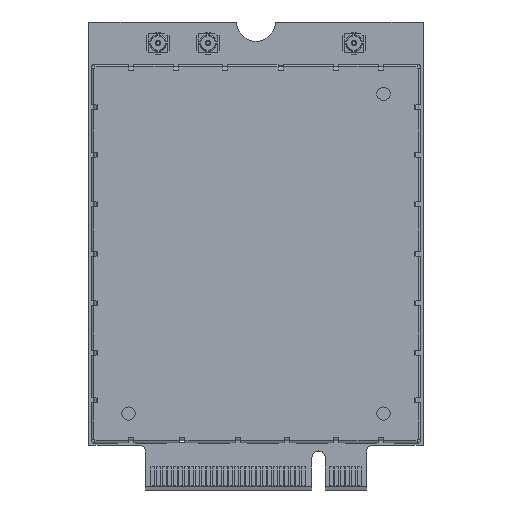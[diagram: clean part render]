
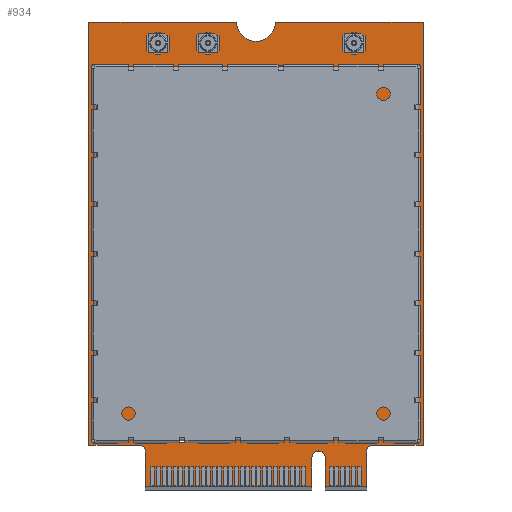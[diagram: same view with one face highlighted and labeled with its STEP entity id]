
A CAD part, top view. The second image highlights one B-rep face of the part: STEP entity #934.
In plain terms, the highlighted planar face has unit normal (0, 0, 1).
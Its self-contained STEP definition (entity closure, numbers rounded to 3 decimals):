
#244=CARTESIAN_POINT('',(9.06,4.5,0.8));
#245=DIRECTION('',(0.,0.,1.));
#246=DIRECTION('',(0.,-1.,0.));
#247=AXIS2_PLACEMENT_3D('',#244,#245,#246);
#252=DIRECTION('',(-1.,0.,0.));
#253=VECTOR('',#252,1.32);
#254=CARTESIAN_POINT('',(9.06,4.73,0.8));
#255=LINE('',#254,#253);
#259=CARTESIAN_POINT('',(7.74,4.5,0.8));
#260=DIRECTION('',(0.,0.,1.));
#261=DIRECTION('',(0.,1.,0.));
#262=AXIS2_PLACEMENT_3D('',#259,#260,#261);
#267=DIRECTION('',(1.,0.,0.));
#268=VECTOR('',#267,1.32);
#269=CARTESIAN_POINT('',(7.74,4.27,0.8));
#270=LINE('',#269,#268);
#274=CARTESIAN_POINT('',(17.86,37.9,0.8));
#275=DIRECTION('',(0.,0.,1.));
#276=DIRECTION('',(0.,-1.,0.));
#277=AXIS2_PLACEMENT_3D('',#274,#275,#276);
#282=DIRECTION('',(-1.,0.,0.));
#283=VECTOR('',#282,1.32);
#284=CARTESIAN_POINT('',(17.86,38.13,0.8));
#285=LINE('',#284,#283);
#289=CARTESIAN_POINT('',(16.54,37.9,0.8));
#290=DIRECTION('',(0.,0.,1.));
#291=DIRECTION('',(0.,1.,0.));
#292=AXIS2_PLACEMENT_3D('',#289,#290,#291);
#297=DIRECTION('',(1.,0.,0.));
#298=VECTOR('',#297,1.32);
#299=CARTESIAN_POINT('',(16.54,37.67,0.8));
#300=LINE('',#299,#298);
#304=DIRECTION('',(0.,-1.,0.));
#305=VECTOR('',#304,3.2);
#306=CARTESIAN_POINT('',(5.075,3.5,0.8));
#307=LINE('',#306,#305);
#311=CARTESIAN_POINT('',(4.575,3.5,0.8));
#312=DIRECTION('',(0.,0.,-1.));
#313=DIRECTION('',(0.,1.,0.));
#314=AXIS2_PLACEMENT_3D('',#311,#312,#313);
#319=DIRECTION('',(1.,0.,0.));
#320=VECTOR('',#319,4.575);
#321=CARTESIAN_POINT('',(0.,4.,0.8));
#322=LINE('',#321,#320);
#326=DIRECTION('',(0.,-1.,0.));
#327=VECTOR('',#326,38.);
#328=CARTESIAN_POINT('',(0.,42.,0.8));
#329=LINE('',#328,#327);
#333=DIRECTION('',(-1.,0.,0.));
#334=VECTOR('',#333,13.25);
#335=CARTESIAN_POINT('',(13.25,42.,0.8));
#336=LINE('',#335,#334);
#340=CARTESIAN_POINT('',(15.,42.,0.8));
#341=DIRECTION('',(0.,0.,-1.));
#342=DIRECTION('',(1.,0.,0.));
#343=AXIS2_PLACEMENT_3D('',#340,#341,#342);
#348=DIRECTION('',(-1.,0.,0.));
#349=VECTOR('',#348,13.25);
#350=CARTESIAN_POINT('',(30.,42.,0.8));
#351=LINE('',#350,#349);
#355=DIRECTION('',(0.,1.,0.));
#356=VECTOR('',#355,38.);
#357=CARTESIAN_POINT('',(30.,4.,0.8));
#358=LINE('',#357,#356);
#362=DIRECTION('',(1.,0.,0.));
#363=VECTOR('',#362,4.575);
#364=CARTESIAN_POINT('',(25.425,4.,0.8));
#365=LINE('',#364,#363);
#369=CARTESIAN_POINT('',(25.425,3.5,0.8));
#370=DIRECTION('',(0.,0.,-1.));
#371=DIRECTION('',(-1.,0.,0.));
#372=AXIS2_PLACEMENT_3D('',#369,#370,#371);
#377=DIRECTION('',(0.,1.,0.));
#378=VECTOR('',#377,3.2);
#379=CARTESIAN_POINT('',(24.925,0.3,0.8));
#380=LINE('',#379,#378);
#384=DIRECTION('',(1.,0.,0.));
#385=VECTOR('',#384,3.7);
#386=CARTESIAN_POINT('',(21.225,0.3,0.8));
#387=LINE('',#386,#385);
#391=DIRECTION('',(0.,-1.,0.));
#392=VECTOR('',#391,2.6);
#393=CARTESIAN_POINT('',(21.225,2.9,0.8));
#394=LINE('',#393,#392);
#398=CARTESIAN_POINT('',(20.625,2.9,0.8));
#399=DIRECTION('',(0.,0.,-1.));
#400=DIRECTION('',(-1.,0.,0.));
#401=AXIS2_PLACEMENT_3D('',#398,#399,#400);
#406=DIRECTION('',(0.,1.,0.));
#407=VECTOR('',#406,2.6);
#408=CARTESIAN_POINT('',(20.025,0.3,0.8));
#409=LINE('',#408,#407);
#413=DIRECTION('',(1.,0.,0.));
#414=VECTOR('',#413,14.95);
#415=CARTESIAN_POINT('',(5.075,0.3,0.8));
#416=LINE('',#415,#414);
#668=CARTESIAN_POINT('',(30.,42.,0.8));
#669=CARTESIAN_POINT('',(16.75,42.,0.8));
#670=VERTEX_POINT('',#668);
#671=VERTEX_POINT('',#669);
#672=CARTESIAN_POINT('',(13.25,42.,0.8));
#673=VERTEX_POINT('',#672);
#674=CARTESIAN_POINT('',(0.,42.,0.8));
#675=VERTEX_POINT('',#674);
#676=CARTESIAN_POINT('',(0.,4.,0.8));
#677=VERTEX_POINT('',#676);
#678=CARTESIAN_POINT('',(4.575,4.,0.8));
#679=VERTEX_POINT('',#678);
#680=CARTESIAN_POINT('',(5.075,3.5,0.8));
#681=VERTEX_POINT('',#680);
#682=CARTESIAN_POINT('',(20.025,2.9,0.8));
#683=CARTESIAN_POINT('',(21.225,2.9,0.8));
#684=VERTEX_POINT('',#682);
#685=VERTEX_POINT('',#683);
#686=CARTESIAN_POINT('',(24.925,3.5,0.8));
#687=CARTESIAN_POINT('',(25.425,4.,0.8));
#688=VERTEX_POINT('',#686);
#689=VERTEX_POINT('',#687);
#690=CARTESIAN_POINT('',(30.,4.,0.8));
#691=VERTEX_POINT('',#690);
#701=CARTESIAN_POINT('',(5.075,0.3,0.8));
#703=VERTEX_POINT('',#701);
#710=CARTESIAN_POINT('',(20.025,0.3,0.8));
#711=VERTEX_POINT('',#710);
#713=CARTESIAN_POINT('',(21.225,0.3,0.8));
#715=VERTEX_POINT('',#713);
#722=CARTESIAN_POINT('',(24.925,0.3,0.8));
#723=VERTEX_POINT('',#722);
#740=CARTESIAN_POINT('',(9.06,4.27,0.8));
#741=CARTESIAN_POINT('',(9.06,4.73,0.8));
#742=VERTEX_POINT('',#740);
#743=VERTEX_POINT('',#741);
#744=CARTESIAN_POINT('',(7.74,4.73,0.8));
#745=VERTEX_POINT('',#744);
#746=CARTESIAN_POINT('',(7.74,4.27,0.8));
#747=VERTEX_POINT('',#746);
#748=CARTESIAN_POINT('',(17.86,37.67,0.8));
#749=CARTESIAN_POINT('',(17.86,38.13,0.8));
#750=VERTEX_POINT('',#748);
#751=VERTEX_POINT('',#749);
#752=CARTESIAN_POINT('',(16.54,38.13,0.8));
#753=VERTEX_POINT('',#752);
#754=CARTESIAN_POINT('',(16.54,37.67,0.8));
#755=VERTEX_POINT('',#754);
#879=CARTESIAN_POINT('',(0.,0.,0.8));
#880=DIRECTION('',(0.,0.,1.));
#881=DIRECTION('',(1.,0.,0.));
#882=AXIS2_PLACEMENT_3D('',#879,#880,#881);
#883=PLANE('',#882);
#885=ORIENTED_EDGE('',*,*,#884,.F.);
#887=ORIENTED_EDGE('',*,*,#886,.F.);
#889=ORIENTED_EDGE('',*,*,#888,.F.);
#891=ORIENTED_EDGE('',*,*,#890,.F.);
#893=ORIENTED_EDGE('',*,*,#892,.F.);
#895=ORIENTED_EDGE('',*,*,#894,.F.);
#897=ORIENTED_EDGE('',*,*,#896,.F.);
#899=ORIENTED_EDGE('',*,*,#898,.F.);
#901=ORIENTED_EDGE('',*,*,#900,.F.);
#903=ORIENTED_EDGE('',*,*,#902,.F.);
#905=ORIENTED_EDGE('',*,*,#904,.F.);
#907=ORIENTED_EDGE('',*,*,#906,.F.);
#909=ORIENTED_EDGE('',*,*,#908,.F.);
#911=ORIENTED_EDGE('',*,*,#910,.F.);
#913=ORIENTED_EDGE('',*,*,#912,.F.);
#915=ORIENTED_EDGE('',*,*,#914,.F.);
#916=EDGE_LOOP('',(#885,#887,#889,#891,#893,#895,#897,#899,#901,#903,#905,#907,
#909,#911,#913,#915));
#917=FACE_OUTER_BOUND('',#916,.F.);
#919=ORIENTED_EDGE('',*,*,#918,.T.);
#921=ORIENTED_EDGE('',*,*,#920,.T.);
#923=ORIENTED_EDGE('',*,*,#922,.T.);
#925=ORIENTED_EDGE('',*,*,#924,.T.);
#926=EDGE_LOOP('',(#919,#921,#923,#925));
#927=FACE_BOUND('',#926,.F.);
#928=ORIENTED_EDGE('',*,*,#831,.T.);
#929=ORIENTED_EDGE('',*,*,#846,.T.);
#930=ORIENTED_EDGE('',*,*,#860,.T.);
#931=ORIENTED_EDGE('',*,*,#873,.T.);
#932=EDGE_LOOP('',(#928,#929,#930,#931));
#933=FACE_BOUND('',#932,.F.);
#248=CIRCLE('',#247,0.23);
#263=CIRCLE('',#262,0.23);
#278=CIRCLE('',#277,0.23);
#293=CIRCLE('',#292,0.23);
#315=CIRCLE('',#314,0.5);
#344=CIRCLE('',#343,1.75);
#373=CIRCLE('',#372,0.5);
#402=CIRCLE('',#401,0.6);
#831=EDGE_CURVE('',#742,#743,#248,.T.);
#846=EDGE_CURVE('',#743,#745,#255,.T.);
#860=EDGE_CURVE('',#745,#747,#263,.T.);
#873=EDGE_CURVE('',#747,#742,#270,.T.);
#884=EDGE_CURVE('',#681,#703,#307,.T.);
#886=EDGE_CURVE('',#679,#681,#315,.T.);
#888=EDGE_CURVE('',#677,#679,#322,.T.);
#890=EDGE_CURVE('',#675,#677,#329,.T.);
#892=EDGE_CURVE('',#673,#675,#336,.T.);
#894=EDGE_CURVE('',#671,#673,#344,.T.);
#896=EDGE_CURVE('',#670,#671,#351,.T.);
#898=EDGE_CURVE('',#691,#670,#358,.T.);
#900=EDGE_CURVE('',#689,#691,#365,.T.);
#902=EDGE_CURVE('',#688,#689,#373,.T.);
#904=EDGE_CURVE('',#723,#688,#380,.T.);
#906=EDGE_CURVE('',#715,#723,#387,.T.);
#908=EDGE_CURVE('',#685,#715,#394,.T.);
#910=EDGE_CURVE('',#684,#685,#402,.T.);
#912=EDGE_CURVE('',#711,#684,#409,.T.);
#914=EDGE_CURVE('',#703,#711,#416,.T.);
#918=EDGE_CURVE('',#750,#751,#278,.T.);
#920=EDGE_CURVE('',#751,#753,#285,.T.);
#922=EDGE_CURVE('',#753,#755,#293,.T.);
#924=EDGE_CURVE('',#755,#750,#300,.T.);
#934=ADVANCED_FACE('',(#917,#927,#933),#883,.T.);
